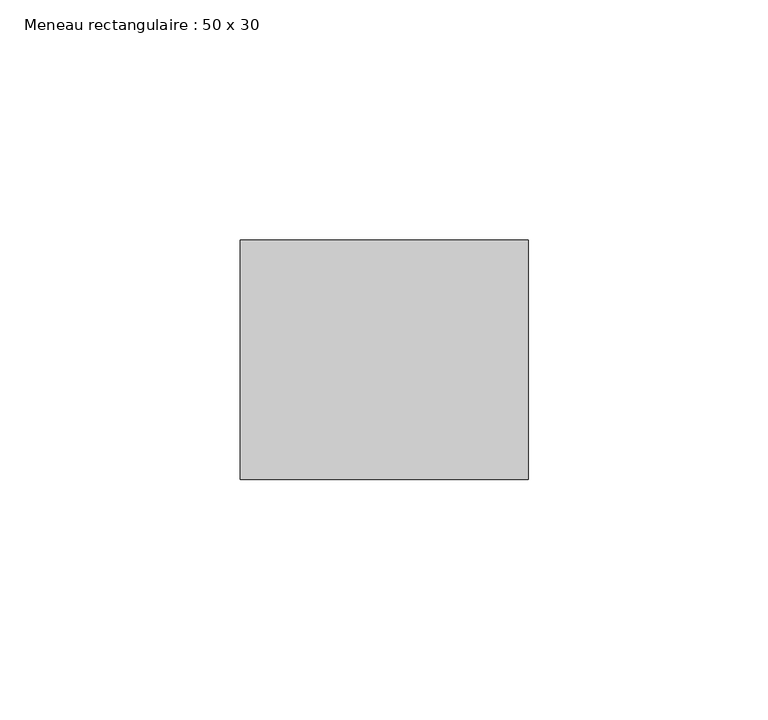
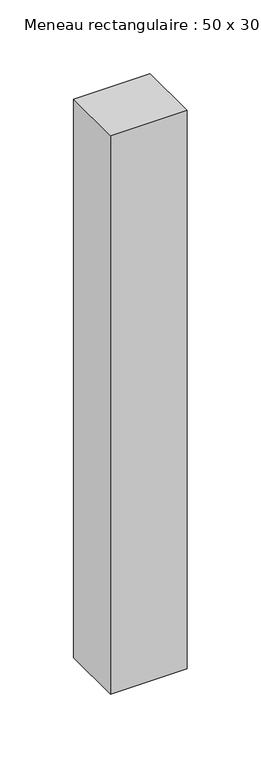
"""IFC4 building model written with IfcOpenShell, lengths in millimetres: member geometry, Meneau rectangulaire : 50 x 30."""

from ifc_helpers import new_model, si_unit, frame, origin, place, context, project, spatial, polyline, outline, extrude, source, transform, mapped, element, save


def meneau_rectangulaire_50_x_30_6f69920f(model_context):
    return source(origin(), model_context, "Body", "SweptSolid", [
        extrude(outline(polyline([(0.0, 0.0), (0.0, -50.0), (-60.0, -50.0), (-60.0, 0.0), (0.0, 0.0)])), frame((0.0, 0.0, -462.0), z_axis=(0.0, 0.0, 1.0), x_axis=(1.0, 0.0, 0.0)), (0.0, 0.0, 1.0), 462.0),
    ])


if __name__ == "__main__":
    model = new_model("IFC4")
    model_context = context("Model", 3, world=origin())
    ifc_project = project(units=[si_unit("LENGTHUNIT", "METRE", prefix="MILLI")], contexts=[model_context])
    site = spatial("IfcSite", under=ifc_project)
    building = spatial("IfcBuilding", under=site)
    placement = place(None, origin())
    meneau_rectangulaire_50_x_30_shape = meneau_rectangulaire_50_x_30_6f69920f(model_context)
    element("IfcMember", 1, ObjectType="Meneau rectangulaire : 50 x 30", at=placement, inside=building, context=model_context, shape_type="MappedRepresentation", body=[
        mapped(meneau_rectangulaire_50_x_30_shape, transform((0.0, 0.0, 0.0), x_axis=(1.0, 0.0, 0.0), y_axis=(0.0, 1.0, 0.0), z_axis=(0.0, 0.0, 1.0))),
    ])
    save(model, "model.ifc")
